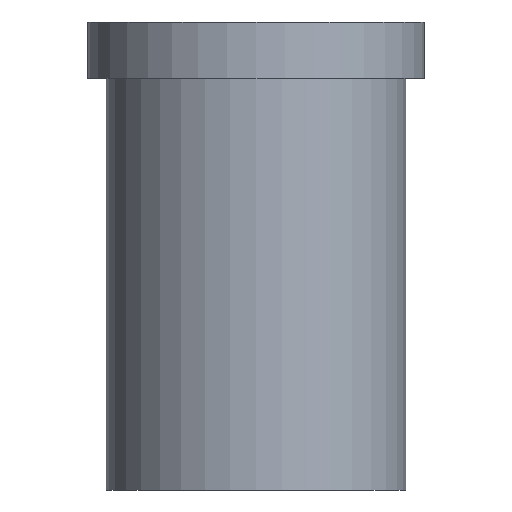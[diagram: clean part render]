
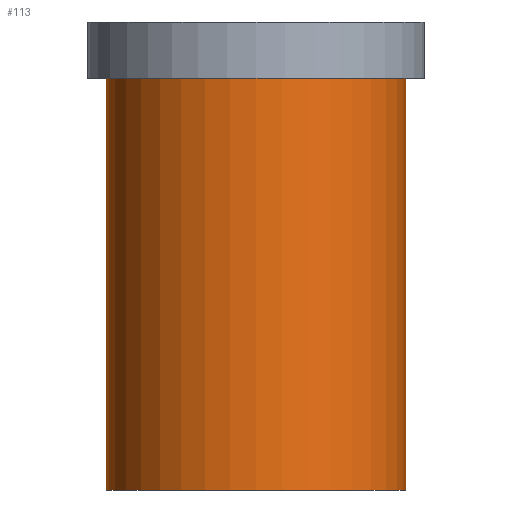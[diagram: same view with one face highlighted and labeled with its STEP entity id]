
A CAD part, front view. The second image highlights one B-rep face of the part: STEP entity #113.
In plain terms, the highlighted cylindrical face has radius 8 mm (diameter 16 mm), a partial arc.
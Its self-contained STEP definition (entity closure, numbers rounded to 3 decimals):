
#113=ADVANCED_FACE('',(#126),#120,.T.);
#120=CYLINDRICAL_SURFACE('',#249,8.);
#126=FACE_OUTER_BOUND('',#136,.T.);
#136=EDGE_LOOP('',(#179,#180,#181,#182));
#148=CIRCLE('',#244,8.);
#150=CIRCLE('',#248,8.);
#179=ORIENTED_EDGE('',*,*,#213,.F.);
#180=ORIENTED_EDGE('',*,*,#212,.T.);
#181=ORIENTED_EDGE('',*,*,#215,.T.);
#182=ORIENTED_EDGE('',*,*,#216,.F.);
#195=VERTEX_POINT('',#328);
#196=VERTEX_POINT('',#329);
#197=VERTEX_POINT('',#333);
#198=VERTEX_POINT('',#335);
#212=EDGE_CURVE('',#196,#195,#148,.T.);
#213=EDGE_CURVE('',#196,#197,#221,.T.);
#215=EDGE_CURVE('',#195,#198,#222,.T.);
#216=EDGE_CURVE('',#197,#198,#150,.T.);
#221=LINE('',#332,#227);
#222=LINE('',#336,#228);
#227=VECTOR('',#289,1.);
#228=VECTOR('',#292,1.);
#244=AXIS2_PLACEMENT_3D('',#330,#285,#286);
#248=AXIS2_PLACEMENT_3D('',#338,#295,#296);
#249=AXIS2_PLACEMENT_3D('',#339,#297,#298);
#285=DIRECTION('',(0.,0.,1.));
#286=DIRECTION('',(0.,1.,0.));
#289=DIRECTION('',(0.,0.,1.));
#292=DIRECTION('',(0.,0.,1.));
#295=DIRECTION('',(0.,0.,1.));
#296=DIRECTION('',(0.,1.,0.));
#297=DIRECTION('',(0.,0.,1.));
#298=DIRECTION('',(0.,-1.,0.));
#328=CARTESIAN_POINT('',(8.,0.,-22.));
#329=CARTESIAN_POINT('',(-8.,0.,-22.));
#330=CARTESIAN_POINT('',(0.,0.,-22.));
#332=CARTESIAN_POINT('',(-8.,0.,-22.));
#333=CARTESIAN_POINT('',(-8.,0.,0.));
#335=CARTESIAN_POINT('',(8.,0.,0.));
#336=CARTESIAN_POINT('',(8.,0.,-22.));
#338=CARTESIAN_POINT('',(0.,0.,0.));
#339=CARTESIAN_POINT('',(0.,0.,-22.));
